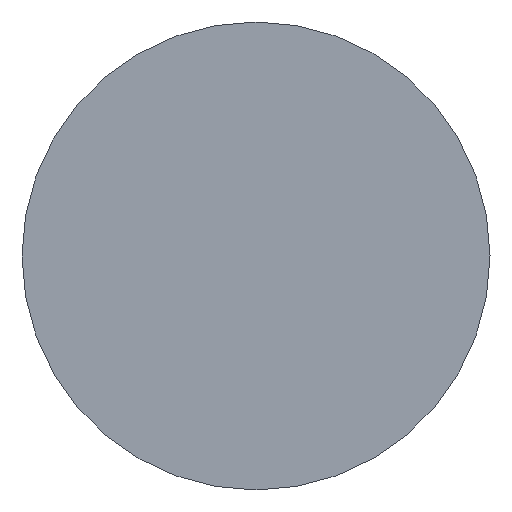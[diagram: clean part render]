
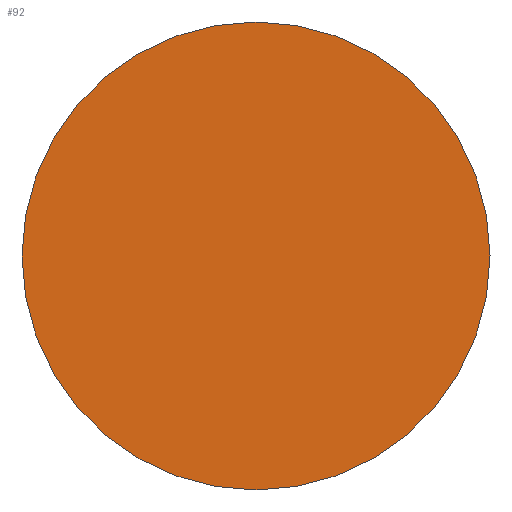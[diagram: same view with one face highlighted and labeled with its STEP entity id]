
A CAD part, left-side view. The second image highlights one B-rep face of the part: STEP entity #92.
In plain terms, the highlighted planar face has unit normal (-1, 0, 0).
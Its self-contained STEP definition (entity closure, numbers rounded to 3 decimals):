
#16=PLANE('',#107);
#26=FACE_OUTER_BOUND('',#36,.T.);
#36=EDGE_LOOP('',(#66));
#47=CIRCLE('',#106,0.55);
#53=VERTEX_POINT('',#155);
#59=EDGE_CURVE('',#53,#53,#47,.T.);
#66=ORIENTED_EDGE('',*,*,#59,.T.);
#92=ADVANCED_FACE('',(#26),#16,.F.);
#106=AXIS2_PLACEMENT_3D('',#156,#125,#126);
#107=AXIS2_PLACEMENT_3D('',#157,#127,#128);
#125=DIRECTION('center_axis',(-1.,0.,0.));
#126=DIRECTION('ref_axis',(0.,-1.,0.));
#127=DIRECTION('center_axis',(1.,0.,0.));
#128=DIRECTION('ref_axis',(0.,0.,-1.));
#155=CARTESIAN_POINT('',(0.,0.55,0.));
#156=CARTESIAN_POINT('Origin',(0.,0.,0.));
#157=CARTESIAN_POINT('Origin',(0.,0.,0.));
